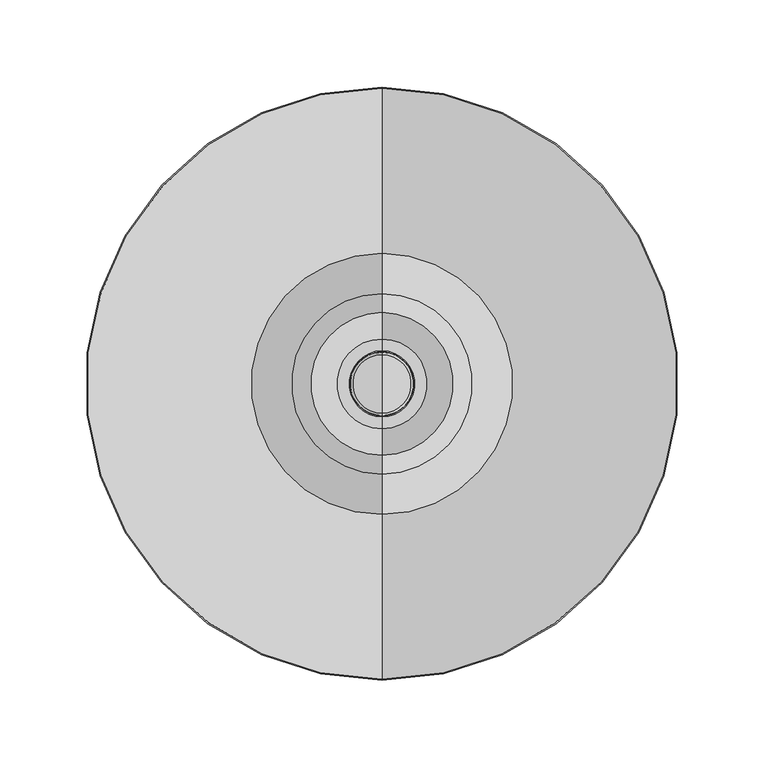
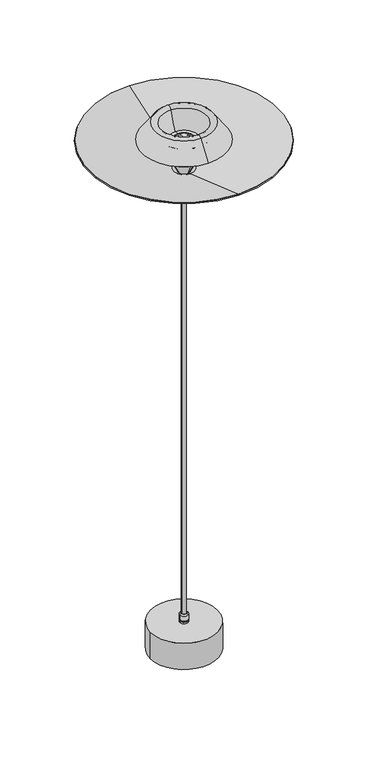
"""IFC4 building model written with IfcOpenShell, lengths in millimetres: light fixture geometry, BOVER_FANALET-S35-OUTDOOR_USA : FANALET_S35_TRIAC_U."""

from ifc_helpers import new_model, si_unit, point, frame, origin, origin_with_axes, origin_2d, place, context, project, spatial, polyline, circle_curve, ellipse_curve, trimmed, segment, composite_curve, outline, extrude, source, transform, mapped, element, save
from ifc_brep_helpers import plane_surface, cylinder_surface, revolved_surface, advanced_brep


def light_fixture_776fbf6a(model_context):
    return source(origin(), model_context, "Body", "SolidModel", [
        advanced_brep(
        [(0.0, 60.3, 976.0), (0.0, 47.1691967, 976.0), (0.0, -47.1691967, 976.0), (0.0, -60.3, 976.0), (0.0, 60.3, 977.0), (0.0, -60.3, 977.0), (0.0, 47.1691967, 977.0), (0.0, -47.1691967, 977.0), (0.0, 43.5785858, 974.7628139), (0.0, -43.5785858, 974.7628139), (0.0, 7.0202796, 900.2985396), (0.0, -7.0202796, 900.2985396), (0.0, 5.7, 894.6134649), (0.0, -5.7, 894.6134649), (0.0, 5.7, 892.2770745), (0.0, -5.7, 892.2770745), (0.0, 6.7, 892.2770745), (0.0, -6.7, 892.2770745), (0.0, 6.7, 894.6134649), (0.0, -6.7, 894.6134649), (0.0, 7.9179323, 899.8578362), (0.0, -7.9179323, 899.8578362), (0.0, 44.4762385, 974.3221104), (0.0, -44.4762385, 974.3221104)],
        [
            (0, 1),
            (1, 2, circle_curve(frame((0.0, 0.0, 976.0), z_axis=(0.0, 0.0, 1.0), x_axis=(0.0, -1.0, 0.0)), 47.1691967)),
            (2, 3),
            (3, 0, circle_curve(frame((0.0, 0.0, 976.0), z_axis=(0.0, 0.0, -1.0), x_axis=(0.0, -1.0, 0.0)), 60.3)),
            (2, 1, circle_curve(frame((0.0, 0.0, 976.0), z_axis=(0.0, 0.0, 1.0), x_axis=(0.0, -1.0, 0.0)), 47.1691967)),
            (0, 3, circle_curve(frame((0.0, 0.0, 976.0), z_axis=(0.0, 0.0, -1.0), x_axis=(0.0, -1.0, 0.0)), 60.3)),
            (4, 0),
            (3, 5),
            (5, 4, circle_curve(frame((0.0, 0.0, 977.0), z_axis=(0.0, 0.0, -1.0), x_axis=(0.0, -1.0, 0.0)), 60.3)),
            (4, 5, circle_curve(frame((0.0, 0.0, 977.0), z_axis=(0.0, 0.0, -1.0), x_axis=(0.0, -1.0, 0.0)), 60.3)),
            (6, 4),
            (5, 7),
            (7, 6, circle_curve(frame((0.0, 0.0, 977.0), z_axis=(0.0, 0.0, -1.0), x_axis=(0.0, -1.0, 0.0)), 47.1691967)),
            (6, 7, circle_curve(frame((0.0, 0.0, 977.0), z_axis=(0.0, 0.0, -1.0), x_axis=(0.0, -1.0, 0.0)), 47.1691967)),
            (8, 6, circle_curve(frame((0.0, 47.1691967, 973.0), z_axis=(-1.0, 0.0, 0.0), x_axis=(0.0, -1.0, 0.0)), 4.0)),
            (7, 9, circle_curve(frame((0.0, -47.1691967, 973.0), z_axis=(-1.0, 0.0, 0.0), x_axis=(0.0, 1.0, 0.0)), 4.0)),
            (9, 8, circle_curve(frame((0.0, 0.0, 974.7628139), z_axis=(0.0, 0.0, -1.0), x_axis=(0.0, -1.0, 0.0)), 43.5785858)),
            (8, 9, circle_curve(frame((0.0, 0.0, 974.7628139), z_axis=(0.0, 0.0, -1.0), x_axis=(0.0, -1.0, 0.0)), 43.5785858)),
            (10, 8),
            (9, 11),
            (11, 10, circle_curve(frame((0.0, 0.0, 900.2985396), z_axis=(0.0, 0.0, -1.0), x_axis=(0.0, -1.0, 0.0)), 7.0202796)),
            (10, 11, circle_curve(frame((0.0, 0.0, 900.2985396), z_axis=(0.0, 0.0, -1.0), x_axis=(0.0, -1.0, 0.0)), 7.0202796)),
            (12, 10, circle_curve(frame((0.0, 18.6, 894.6134649), z_axis=(-1.0, 0.0, 0.0), x_axis=(0.0, -1.0, 0.0)), 12.9)),
            (11, 13, circle_curve(frame((0.0, -18.6, 894.6134649), z_axis=(-1.0, 0.0, 0.0), x_axis=(0.0, 1.0, 0.0)), 12.9)),
            (13, 12, circle_curve(frame((0.0, 0.0, 894.6134649), z_axis=(0.0, 0.0, -1.0), x_axis=(0.0, -1.0, 0.0)), 5.7)),
            (12, 13, circle_curve(frame((0.0, 0.0, 894.6134649), z_axis=(0.0, 0.0, -1.0), x_axis=(0.0, -1.0, 0.0)), 5.7)),
            (14, 12),
            (13, 15),
            (15, 14, circle_curve(frame((0.0, 0.0, 892.2770745), z_axis=(0.0, 0.0, -1.0), x_axis=(0.0, -1.0, 0.0)), 5.7)),
            (14, 15, circle_curve(frame((0.0, 0.0, 892.2770745), z_axis=(0.0, 0.0, -1.0), x_axis=(0.0, -1.0, 0.0)), 5.7)),
            (16, 14),
            (15, 17),
            (17, 16, circle_curve(frame((0.0, 0.0, 892.2770745), z_axis=(0.0, 0.0, -1.0), x_axis=(0.0, -1.0, 0.0)), 6.7)),
            (16, 17, circle_curve(frame((0.0, 0.0, 892.2770745), z_axis=(0.0, 0.0, -1.0), x_axis=(0.0, -1.0, 0.0)), 6.7)),
            (18, 16),
            (17, 19),
            (19, 18, circle_curve(frame((0.0, 0.0, 894.6134649), z_axis=(0.0, 0.0, -1.0), x_axis=(0.0, -1.0, 0.0)), 6.7)),
            (18, 19, circle_curve(frame((0.0, 0.0, 894.6134649), z_axis=(0.0, 0.0, -1.0), x_axis=(0.0, -1.0, 0.0)), 6.7)),
            (20, 18, circle_curve(frame((0.0, 18.6, 894.6134649), z_axis=(1.0, 0.0, 0.0), x_axis=(0.0, -1.0, 0.0)), 11.9)),
            (19, 21, circle_curve(frame((0.0, -18.6, 894.6134649), z_axis=(1.0, 0.0, 0.0), x_axis=(0.0, 1.0, 0.0)), 11.9)),
            (21, 20, circle_curve(frame((0.0, 0.0, 899.8578362), z_axis=(0.0, 0.0, -1.0), x_axis=(0.0, -1.0, 0.0)), 7.9179323)),
            (20, 21, circle_curve(frame((0.0, 0.0, 899.8578362), z_axis=(0.0, 0.0, -1.0), x_axis=(0.0, -1.0, 0.0)), 7.9179323)),
            (22, 20),
            (21, 23),
            (23, 22, circle_curve(frame((0.0, 0.0, 974.3221104), z_axis=(0.0, 0.0, -1.0), x_axis=(0.0, -1.0, 0.0)), 44.4762385)),
            (22, 23, circle_curve(frame((0.0, 0.0, 974.3221104), z_axis=(0.0, 0.0, -1.0), x_axis=(0.0, -1.0, 0.0)), 44.4762385)),
            (1, 22, circle_curve(frame((0.0, 47.1691967, 973.0), z_axis=(1.0, 0.0, 0.0), x_axis=(0.0, -1.0, 0.0)), 3.0)),
            (23, 2, circle_curve(frame((0.0, -47.1691967, 973.0), z_axis=(1.0, 0.0, 0.0), x_axis=(0.0, 1.0, 0.0)), 3.0)),
        ],
        [
            plane_surface(frame((0.0, 0.0, 976.0), z_axis=(0.0, 0.0, -1.0), x_axis=(0.0, -1.0, 0.0))),
            cylinder_surface(frame((0.0, 0.0, 918.2770745), z_axis=(0.0, 0.0, 1.0), x_axis=(0.0, -1.0, 0.0)), 60.3),
            plane_surface(frame((0.0, 0.0, 977.0), z_axis=(0.0, 0.0, 1.0), x_axis=(0.0, -1.0, 0.0))),
            revolved_surface(trimmed(ellipse_curve(frame((0.0, -47.1691967, 973.0), z_axis=(-1.0, 0.0, 0.0), x_axis=(0.0, 1.0, 0.0)), 4.0, 4.0), [point((0.0, -47.1691967, 977.0))], [point((0.0, -43.5785858, 974.7628139))], True, "CARTESIAN"), (0.0, 0.0, 918.2770745), (0.0, 0.0, 1.0)),
            revolved_surface(polyline([(0.0, -43.5785858, 974.7628139), (0.0, -7.0202796, 900.2985396)]), (0.0, 0.0, 918.2770745), (0.0, 0.0, 1.0)),
            revolved_surface(trimmed(ellipse_curve(frame((0.0, -18.6, 894.6134649), z_axis=(-1.0, 0.0, 0.0), x_axis=(0.0, 1.0, 0.0)), 12.9, 12.9), [point((0.0, -7.0202796, 900.2985396))], [point((0.0, -5.7, 894.6134649))], True, "CARTESIAN"), (0.0, 0.0, 918.2770745), (0.0, 0.0, 1.0)),
            revolved_surface(polyline([(0.0, -5.7, 894.6134649), (0.0, -5.7, 892.2770745)]), (0.0, 0.0, 918.2770745), (0.0, 0.0, 1.0)),
            plane_surface(frame((0.0, 0.0, 892.2770745), z_axis=(0.0, 0.0, -1.0), x_axis=(0.0, -1.0, 0.0))),
            cylinder_surface(frame((0.0, 0.0, 918.2770745), z_axis=(0.0, 0.0, 1.0), x_axis=(0.0, -1.0, 0.0)), 6.7),
            revolved_surface(trimmed(ellipse_curve(frame((0.0, -18.6, 894.6134649), z_axis=(1.0, 0.0, 0.0), x_axis=(0.0, 1.0, 0.0)), 11.9, 11.9), [point((0.0, -6.7, 894.6134649))], [point((0.0, -7.9179323, 899.8578362))], True, "CARTESIAN"), (0.0, 0.0, 918.2770745), (0.0, 0.0, 1.0)),
            revolved_surface(polyline([(0.0, -7.9179323, 899.8578362), (0.0, -44.4762385, 974.3221104)]), (0.0, 0.0, 918.2770745), (0.0, 0.0, 1.0)),
            revolved_surface(trimmed(ellipse_curve(frame((0.0, -47.1691967, 973.0), z_axis=(1.0, 0.0, 0.0), x_axis=(0.0, 1.0, 0.0)), 3.0, 3.0), [point((0.0, -44.4762385, 974.3221104))], [point((0.0, -47.1691967, 976.0))], True, "CARTESIAN"), (0.0, 0.0, 918.2770745), (0.0, 0.0, 1.0)),
        ],
        [
            (0, [[1, 2, 3, 4]]),
            (0, [[-3, 5, -1, 6]]),
            (1, [[7, -4, 8, 9]]),
            (1, [[-8, -6, -7, 10]]),
            (2, [[11, -9, 12, 13]]),
            (2, [[-12, -10, -11, 14]]),
            (3, [[15, -13, 16, 17]]),
            (3, [[-16, -14, -15, 18]]),
            (4, [[19, -17, 20, 21]]),
            (4, [[-20, -18, -19, 22]]),
            (5, [[23, -21, 24, 25]]),
            (5, [[-24, -22, -23, 26]]),
            (6, [[27, -25, 28, 29]]),
            (6, [[-28, -26, -27, 30]]),
            (7, [[31, -29, 32, 33]]),
            (7, [[-32, -30, -31, 34]]),
            (8, [[35, -33, 36, 37]]),
            (8, [[-36, -34, -35, 38]]),
            (9, [[39, -37, 40, 41]]),
            (9, [[-40, -38, -39, 42]]),
            (10, [[43, -41, 44, 45]]),
            (10, [[-44, -42, -43, 46]]),
            (11, [[47, -45, 48, -2]]),
            (11, [[-48, -46, -47, -5]]),
        ],
    ),
        advanced_brep(
        [(0.0, 25.6944102, 960.1), (0.0, 18.9944102, 960.1), (0.0, -18.9944102, 960.1), (0.0, -25.6944102, 960.1), (0.0, 25.6944102, 962.1), (0.0, -25.6944102, 962.1), (0.0, 18.9944102, 962.1), (0.0, -18.9944102, 962.1)],
        [
            (0, 1),
            (1, 2, circle_curve(frame((0.0, 0.0, 960.1), z_axis=(0.0, 0.0, 1.0), x_axis=(0.0, -1.0, 0.0)), 18.9944102)),
            (2, 3),
            (3, 0, circle_curve(frame((0.0, 0.0, 960.1), z_axis=(0.0, 0.0, -1.0), x_axis=(0.0, -1.0, 0.0)), 25.6944102)),
            (2, 1, circle_curve(frame((0.0, 0.0, 960.1), z_axis=(0.0, 0.0, 1.0), x_axis=(0.0, -1.0, 0.0)), 18.9944102)),
            (0, 3, circle_curve(frame((0.0, 0.0, 960.1), z_axis=(0.0, 0.0, -1.0), x_axis=(0.0, -1.0, 0.0)), 25.6944102)),
            (4, 0),
            (3, 5),
            (5, 4, circle_curve(frame((0.0, 0.0, 962.1), z_axis=(0.0, 0.0, -1.0), x_axis=(0.0, -1.0, 0.0)), 25.6944102)),
            (4, 5, circle_curve(frame((0.0, 0.0, 962.1), z_axis=(0.0, 0.0, -1.0), x_axis=(0.0, -1.0, 0.0)), 25.6944102)),
            (6, 4),
            (5, 7),
            (7, 6, circle_curve(frame((0.0, 0.0, 962.1), z_axis=(0.0, 0.0, -1.0), x_axis=(0.0, -1.0, 0.0)), 18.9944102)),
            (6, 7, circle_curve(frame((0.0, 0.0, 962.1), z_axis=(0.0, 0.0, -1.0), x_axis=(0.0, -1.0, 0.0)), 18.9944102)),
            (1, 6),
            (7, 2),
        ],
        [
            plane_surface(frame((0.0, 0.0, 960.1), z_axis=(0.0, 0.0, -1.0), x_axis=(0.0, -1.0, 0.0))),
            cylinder_surface(frame((0.0, 0.0, 946.3553389), z_axis=(0.0, 0.0, 1.0), x_axis=(0.0, -1.0, 0.0)), 25.6944102),
            plane_surface(frame((0.0, 0.0, 962.1), z_axis=(0.0, 0.0, 1.0), x_axis=(0.0, -1.0, 0.0))),
            revolved_surface(polyline([(0.0, -18.9944102, 962.1), (0.0, -18.9944102, 960.1)]), (0.0, 0.0, 946.3553389), (0.0, 0.0, 1.0)),
        ],
        [
            (0, [[1, 2, 3, 4]]),
            (0, [[-3, 5, -1, 6]]),
            (1, [[7, -4, 8, 9]]),
            (1, [[-8, -6, -7, 10]]),
            (2, [[11, -9, 12, 13]]),
            (2, [[-12, -10, -11, 14]]),
            (3, [[15, -13, 16, -2]]),
            (3, [[-16, -14, -15, -5]]),
        ],
    ),
        advanced_brep(
        [(0.0, 25.2, 960.1), (0.0, 25.2, 958.6), (0.0, -25.2, 958.6), (0.0, -25.2, 960.1), (0.0, 18.3, 960.1), (0.0, -18.3, 960.1), (0.0, 18.2373555, 961.8316716), (0.0, -18.2373555, 961.8316716), (0.0, 16.803486, 963.6779542), (0.0, -16.803486, 963.6779542), (0.0, 0.0, 966.1), (0.0, 16.7253602, 962.1361353), (0.0, 0.0, 964.6), (0.0, -16.7253602, 962.1361353), (0.0, 16.8009805, 960.0457719), (0.0, -16.8009805, 960.0457719), (0.0, 18.3, 958.6), (0.0, -18.3, 958.6)],
        [
            (0, 1),
            (1, 2, circle_curve(frame((0.0, 0.0, 958.6), z_axis=(0.0, 0.0, 1.0), x_axis=(0.0, -1.0, 0.0)), 25.2)),
            (2, 3),
            (3, 0, circle_curve(frame((0.0, 0.0, 960.1), z_axis=(0.0, 0.0, -1.0), x_axis=(0.0, -1.0, 0.0)), 25.2)),
            (2, 1, circle_curve(frame((0.0, 0.0, 958.6), z_axis=(0.0, 0.0, 1.0), x_axis=(0.0, -1.0, 0.0)), 25.2)),
            (0, 3, circle_curve(frame((0.0, 0.0, 960.1), z_axis=(0.0, 0.0, -1.0), x_axis=(0.0, -1.0, 0.0)), 25.2)),
            (4, 0),
            (3, 5),
            (5, 4, circle_curve(frame((0.0, 0.0, 960.1), z_axis=(0.0, 0.0, -1.0), x_axis=(0.0, -1.0, 0.0)), 18.3)),
            (4, 5, circle_curve(frame((0.0, 0.0, 960.1), z_axis=(0.0, 0.0, -1.0), x_axis=(0.0, -1.0, 0.0)), 18.3)),
            (6, 4),
            (5, 7),
            (7, 6, circle_curve(frame((0.0, 0.0, 961.8316716), z_axis=(0.0, 0.0, -1.0), x_axis=(0.0, -1.0, 0.0)), 18.2373555)),
            (6, 7, circle_curve(frame((0.0, 0.0, 961.8316716), z_axis=(0.0, 0.0, -1.0), x_axis=(0.0, -1.0, 0.0)), 18.2373555)),
            (8, 6, circle_curve(frame((0.0, 16.2386629, 961.7593675), z_axis=(-1.0, 0.0, 0.0), x_axis=(0.0, -1.0, 0.0)), 2.0)),
            (7, 9, circle_curve(frame((0.0, -16.2386629, 961.7593675), z_axis=(-1.0, 0.0, 0.0), x_axis=(0.0, 1.0, 0.0)), 2.0)),
            (9, 8, circle_curve(frame((0.0, 0.0, 963.6779542), z_axis=(0.0, 0.0, -1.0), x_axis=(0.0, -1.0, 0.0)), 16.803486)),
            (8, 9, circle_curve(frame((0.0, 0.0, 963.6779542), z_axis=(0.0, 0.0, -1.0), x_axis=(0.0, -1.0, 0.0)), 16.803486)),
            (10, 8, circle_curve(frame((0.0, 0.0, 906.6), z_axis=(-1.0, 0.0, 0.0), x_axis=(0.0, -1.0, 0.0)), 59.5)),
            (9, 10, circle_curve(frame((0.0, 0.0, 906.6), z_axis=(-1.0, 0.0, 0.0), x_axis=(0.0, 1.0, 0.0)), 59.5)),
            (11, 12, circle_curve(frame((0.0, 0.0, 906.6), z_axis=(1.0, 0.0, 0.0), x_axis=(0.0, -1.0, 0.0)), 58.0)),
            (12, 13, circle_curve(frame((0.0, 0.0, 906.6), z_axis=(1.0, 0.0, 0.0), x_axis=(0.0, 1.0, 0.0)), 58.0)),
            (13, 11, circle_curve(frame((0.0, 0.0, 962.1361353), z_axis=(0.0, 0.0, -1.0), x_axis=(0.0, -1.0, 0.0)), 16.7253602)),
            (11, 13, circle_curve(frame((0.0, 0.0, 962.1361353), z_axis=(0.0, 0.0, -1.0), x_axis=(0.0, -1.0, 0.0)), 16.7253602)),
            (14, 11),
            (13, 15),
            (15, 14, circle_curve(frame((0.0, 0.0, 960.0457719), z_axis=(0.0, 0.0, -1.0), x_axis=(0.0, -1.0, 0.0)), 16.8009805)),
            (14, 15, circle_curve(frame((0.0, 0.0, 960.0457719), z_axis=(0.0, 0.0, -1.0), x_axis=(0.0, -1.0, 0.0)), 16.8009805)),
            (16, 14, circle_curve(frame((0.0, 18.3, 960.1), z_axis=(-1.0, 0.0, 0.0), x_axis=(0.0, -1.0, 0.0)), 1.5)),
            (15, 17, circle_curve(frame((0.0, -18.3, 960.1), z_axis=(-1.0, 0.0, 0.0), x_axis=(0.0, 1.0, 0.0)), 1.5)),
            (17, 16, circle_curve(frame((0.0, 0.0, 958.6), z_axis=(0.0, 0.0, -1.0), x_axis=(0.0, -1.0, 0.0)), 18.3)),
            (16, 17, circle_curve(frame((0.0, 0.0, 958.6), z_axis=(0.0, 0.0, -1.0), x_axis=(0.0, -1.0, 0.0)), 18.3)),
            (1, 16),
            (17, 2),
        ],
        [
            cylinder_surface(frame((0.0, 0.0, 957.8466328), z_axis=(0.0, 0.0, 1.0), x_axis=(0.0, -1.0, 0.0)), 25.2),
            plane_surface(frame((0.0, 0.0, 960.1), z_axis=(0.0, 0.0, 1.0), x_axis=(0.0, -1.0, 0.0))),
            revolved_surface(polyline([(0.0, -18.3, 960.1), (0.0, -18.2373555, 961.8316716)]), (0.0, 0.0, 957.8466328), (0.0, 0.0, 1.0)),
            revolved_surface(trimmed(ellipse_curve(frame((0.0, -16.2386629, 961.7593675), z_axis=(-1.0, 0.0, 0.0), x_axis=(0.0, 1.0, 0.0)), 2.0, 2.0), [point((0.0, -18.2373555, 961.8316716))], [point((0.0, -16.803486, 963.6779542))], True, "CARTESIAN"), (0.0, 0.0, 957.8466328), (0.0, 0.0, 1.0)),
            revolved_surface(trimmed(ellipse_curve(frame((0.0, 0.0, 906.6), z_axis=(-1.0, 0.0, 0.0), x_axis=(0.0, 1.0, 0.0)), 59.5, 59.5), [point((0.0, -16.803486, 963.6779542))], [point((0.0, 0.0, 966.1))], True, "CARTESIAN"), (0.0, 0.0, 957.8466328), (0.0, 0.0, 1.0)),
            revolved_surface(trimmed(ellipse_curve(frame((0.0, 0.0, 906.6), z_axis=(1.0, 0.0, 0.0), x_axis=(0.0, 1.0, 0.0)), 58.0, 58.0), [point((0.0, 0.0, 964.6))], [point((0.0, -16.7253602, 962.1361353))], True, "CARTESIAN"), (0.0, 0.0, 957.8466328), (0.0, 0.0, 1.0)),
            revolved_surface(polyline([(0.0, -16.7253602, 962.1361353), (0.0, -16.8009805, 960.0457719)]), (0.0, 0.0, 957.8466328), (0.0, 0.0, 1.0)),
            revolved_surface(trimmed(ellipse_curve(frame((0.0, -18.3, 960.1), z_axis=(-1.0, 0.0, 0.0), x_axis=(0.0, 1.0, 0.0)), 1.5, 1.5), [point((0.0, -16.8009805, 960.0457719))], [point((0.0, -18.3, 958.6))], True, "CARTESIAN"), (0.0, 0.0, 957.8466328), (0.0, 0.0, 1.0)),
            plane_surface(frame((0.0, 0.0, 958.6), z_axis=(0.0, 0.0, -1.0), x_axis=(0.0, -1.0, 0.0))),
        ],
        [
            (0, [[1, 2, 3, 4]]),
            (0, [[-3, 5, -1, 6]]),
            (1, [[7, -4, 8, 9]]),
            (1, [[-8, -6, -7, 10]]),
            (2, [[11, -9, 12, 13]]),
            (2, [[-12, -10, -11, 14]]),
            (3, [[15, -13, 16, 17]]),
            (3, [[-16, -14, -15, 18]]),
            (4, [[19, -17, 20]]),
            (4, [[-20, -18, -19]]),
            (5, [[21, 22, 23]]),
            (5, [[-22, -21, 24]]),
            (6, [[25, -23, 26, 27]]),
            (6, [[-26, -24, -25, 28]]),
            (7, [[29, -27, 30, 31]]),
            (7, [[-30, -28, -29, 32]]),
            (8, [[33, -31, 34, -2]]),
            (8, [[-34, -32, -33, -5]]),
        ],
    ),
        advanced_brep(
        [(0.0, 40.9046909, 994.0325512), (0.0, 51.6915226, 996.2416263), (0.0, -51.6915226, 996.2416263), (0.0, -40.9046909, 994.0325512), (0.0, 25.0991174, 956.099457), (0.0, -25.0991174, 956.099457), (0.0, 23.4291458, 955.2), (0.0, -23.4291458, 955.2), (0.0, 25.9341031, 955.5491855), (0.0, 23.4291458, 954.2), (0.0, -23.4291458, 954.2), (0.0, -25.9341031, 955.5491855), (0.0, 41.8833637, 993.827126), (0.0, -41.8833637, 993.827126), (0.0, 50.8723902, 995.668022), (0.0, -50.8723902, 995.668022), (0.0, 74.0326585, 962.5941332), (0.0, -74.0326585, 962.5941332), (0.0, 74.851791, 963.1677376), (0.0, -74.851791, 963.1677376)],
        [
            (0, 1, circle_curve(frame((0.0, 46.7767278, 992.8), z_axis=(-1.0, 0.0, 0.0), x_axis=(0.0, -1.0, 0.0)), 6.0)),
            (1, 2, circle_curve(frame((0.0, 0.0, 996.2416263), z_axis=(0.0, 0.0, 1.0), x_axis=(0.0, -1.0, 0.0)), 51.6915226)),
            (2, 3, circle_curve(frame((0.0, -46.7767278, 992.8), z_axis=(-1.0, 0.0, 0.0), x_axis=(0.0, 1.0, 0.0)), 6.0)),
            (3, 0, circle_curve(frame((0.0, 0.0, 994.0325512), z_axis=(0.0, 0.0, -1.0), x_axis=(0.0, -1.0, 0.0)), 40.9046909)),
            (2, 1, circle_curve(frame((0.0, 0.0, 996.2416263), z_axis=(0.0, 0.0, 1.0), x_axis=(0.0, -1.0, 0.0)), 51.6915226)),
            (0, 3, circle_curve(frame((0.0, 0.0, 994.0325512), z_axis=(0.0, 0.0, -1.0), x_axis=(0.0, -1.0, 0.0)), 40.9046909)),
            (4, 0, circle_curve(frame((0.0, -66.7493192, 1016.6293231), z_axis=(1.0, 0.0, 0.0), x_axis=(0.0, -1.0, 0.0)), 110.0)),
            (3, 5, circle_curve(frame((0.0, 66.7493192, 1016.6293231), z_axis=(1.0, 0.0, 0.0), x_axis=(0.0, 1.0, 0.0)), 110.0)),
            (5, 4, circle_curve(frame((0.0, 0.0, 956.099457), z_axis=(0.0, 0.0, -1.0), x_axis=(0.0, -1.0, 0.0)), 25.0991174)),
            (4, 5, circle_curve(frame((0.0, 0.0, 956.099457), z_axis=(0.0, 0.0, -1.0), x_axis=(0.0, -1.0, 0.0)), 25.0991174)),
            (6, 4, circle_curve(frame((0.0, 23.4291458, 957.2), z_axis=(1.0, 0.0, 0.0), x_axis=(0.0, -1.0, 0.0)), 2.0)),
            (5, 7, circle_curve(frame((0.0, -23.4291458, 957.2), z_axis=(1.0, 0.0, 0.0), x_axis=(0.0, 1.0, 0.0)), 2.0)),
            (7, 6, circle_curve(frame((0.0, 0.0, 955.2), z_axis=(0.0, 0.0, -1.0), x_axis=(0.0, -1.0, 0.0)), 23.4291458)),
            (6, 7, circle_curve(frame((0.0, 0.0, 955.2), z_axis=(0.0, 0.0, -1.0), x_axis=(0.0, -1.0, 0.0)), 23.4291458)),
            (8, 9, circle_curve(frame((0.0, 23.4291458, 957.2), z_axis=(-1.0, 0.0, 0.0), x_axis=(0.0, -1.0, 0.0)), 3.0)),
            (9, 10, circle_curve(frame((0.0, 0.0, 954.2), z_axis=(0.0, 0.0, 1.0), x_axis=(0.0, -1.0, 0.0)), 23.4291458)),
            (10, 11, circle_curve(frame((0.0, -23.4291458, 957.2), z_axis=(-1.0, 0.0, 0.0), x_axis=(0.0, 1.0, 0.0)), 3.0)),
            (11, 8, circle_curve(frame((0.0, 0.0, 955.5491855), z_axis=(0.0, 0.0, -1.0), x_axis=(0.0, -1.0, 0.0)), 25.9341031)),
            (10, 9, circle_curve(frame((0.0, 0.0, 954.2), z_axis=(0.0, 0.0, 1.0), x_axis=(0.0, -1.0, 0.0)), 23.4291458)),
            (8, 11, circle_curve(frame((0.0, 0.0, 955.5491855), z_axis=(0.0, 0.0, -1.0), x_axis=(0.0, -1.0, 0.0)), 25.9341031)),
            (12, 8, circle_curve(frame((0.0, -66.7493192, 1016.6293231), z_axis=(-1.0, 0.0, 0.0), x_axis=(0.0, -1.0, 0.0)), 111.0)),
            (11, 13, circle_curve(frame((0.0, 66.7493192, 1016.6293231), z_axis=(-1.0, 0.0, 0.0), x_axis=(0.0, 1.0, 0.0)), 111.0)),
            (13, 12, circle_curve(frame((0.0, 0.0, 993.827126), z_axis=(0.0, 0.0, -1.0), x_axis=(0.0, -1.0, 0.0)), 41.8833637)),
            (12, 13, circle_curve(frame((0.0, 0.0, 993.827126), z_axis=(0.0, 0.0, -1.0), x_axis=(0.0, -1.0, 0.0)), 41.8833637)),
            (14, 12, circle_curve(frame((0.0, 46.7767278, 992.8), z_axis=(1.0, 0.0, 0.0), x_axis=(0.0, -1.0, 0.0)), 5.0)),
            (13, 15, circle_curve(frame((0.0, -46.7767278, 992.8), z_axis=(1.0, 0.0, 0.0), x_axis=(0.0, 1.0, 0.0)), 5.0)),
            (15, 14, circle_curve(frame((0.0, 0.0, 995.668022), z_axis=(0.0, 0.0, -1.0), x_axis=(0.0, -1.0, 0.0)), 50.8723902)),
            (14, 15, circle_curve(frame((0.0, 0.0, 995.668022), z_axis=(0.0, 0.0, -1.0), x_axis=(0.0, -1.0, 0.0)), 50.8723902)),
            (16, 14),
            (15, 17),
            (17, 16, circle_curve(frame((0.0, 0.0, 962.5941332), z_axis=(0.0, 0.0, -1.0), x_axis=(0.0, -1.0, 0.0)), 74.0326585)),
            (16, 17, circle_curve(frame((0.0, 0.0, 962.5941332), z_axis=(0.0, 0.0, -1.0), x_axis=(0.0, -1.0, 0.0)), 74.0326585)),
            (18, 16),
            (17, 19),
            (19, 18, circle_curve(frame((0.0, 0.0, 963.1677376), z_axis=(0.0, 0.0, -1.0), x_axis=(0.0, -1.0, 0.0)), 74.851791)),
            (18, 19, circle_curve(frame((0.0, 0.0, 963.1677376), z_axis=(0.0, 0.0, -1.0), x_axis=(0.0, -1.0, 0.0)), 74.851791)),
            (1, 18),
            (19, 2),
            (9, 6),
            (7, 10),
        ],
        [
            revolved_surface(trimmed(ellipse_curve(frame((0.0, -46.7767278, 992.8), z_axis=(-1.0, 0.0, 0.0), x_axis=(0.0, 1.0, 0.0)), 6.0, 6.0), [point((0.0, -51.6915226, 996.2416263))], [point((0.0, -40.9046909, 994.0325512))], True, "CARTESIAN"), (0.0, 0.0, 931.637333), (0.0, 0.0, 1.0)),
            revolved_surface(trimmed(ellipse_curve(frame((0.0, 66.7493192, 1016.6293231), z_axis=(1.0, 0.0, 0.0), x_axis=(0.0, 1.0, 0.0)), 110.0, 110.0), [point((0.0, -40.9046909, 994.0325512))], [point((0.0, -25.0991174, 956.099457))], True, "CARTESIAN"), (0.0, 0.0, 931.637333), (0.0, 0.0, 1.0)),
            revolved_surface(trimmed(ellipse_curve(frame((0.0, -23.4291458, 957.2), z_axis=(1.0, 0.0, 0.0), x_axis=(0.0, 1.0, 0.0)), 2.0, 2.0), [point((0.0, -25.0991174, 956.099457))], [point((0.0, -23.4291458, 955.2))], True, "CARTESIAN"), (0.0, 0.0, 931.637333), (0.0, 0.0, 1.0)),
            revolved_surface(trimmed(ellipse_curve(frame((0.0, -23.4291458, 957.2), z_axis=(-1.0, 0.0, 0.0), x_axis=(0.0, 1.0, 0.0)), 3.0, 3.0), [point((0.0, -23.4291458, 954.2))], [point((0.0, -25.9341031, 955.5491855))], True, "CARTESIAN"), (0.0, 0.0, 931.637333), (0.0, 0.0, 1.0)),
            revolved_surface(trimmed(ellipse_curve(frame((0.0, 66.7493192, 1016.6293231), z_axis=(-1.0, 0.0, 0.0), x_axis=(0.0, 1.0, 0.0)), 111.0, 111.0), [point((0.0, -25.9341031, 955.5491855))], [point((0.0, -41.8833637, 993.827126))], True, "CARTESIAN"), (0.0, 0.0, 931.637333), (0.0, 0.0, 1.0)),
            revolved_surface(trimmed(ellipse_curve(frame((0.0, -46.7767278, 992.8), z_axis=(1.0, 0.0, 0.0), x_axis=(0.0, 1.0, 0.0)), 5.0, 5.0), [point((0.0, -41.8833637, 993.827126))], [point((0.0, -50.8723902, 995.668022))], True, "CARTESIAN"), (0.0, 0.0, 931.637333), (0.0, 0.0, 1.0)),
            revolved_surface(polyline([(0.0, -50.8723902, 995.668022), (0.0, -74.0326585, 962.5941332)]), (0.0, 0.0, 931.637333), (0.0, 0.0, 1.0)),
            revolved_surface(polyline([(0.0, -74.0326585, 962.5941332), (0.0, -74.851791, 963.1677376)]), (0.0, 0.0, 931.637333), (0.0, 0.0, 1.0)),
            revolved_surface(polyline([(0.0, -74.851791, 963.1677376), (0.0, -51.6915226, 996.2416263)]), (0.0, 0.0, 931.637333), (0.0, 0.0, 1.0)),
            revolved_surface(polyline([(0.0, -23.4291458, 955.2), (0.0, -23.4291458, 954.2)]), (0.0, 0.0, 931.637333), (0.0, 0.0, 1.0)),
        ],
        [
            (0, [[1, 2, 3, 4]]),
            (0, [[-3, 5, -1, 6]]),
            (1, [[7, -4, 8, 9]]),
            (1, [[-8, -6, -7, 10]]),
            (2, [[11, -9, 12, 13]]),
            (2, [[-12, -10, -11, 14]]),
            (3, [[15, 16, 17, 18]]),
            (3, [[-17, 19, -15, 20]]),
            (4, [[21, -18, 22, 23]]),
            (4, [[-22, -20, -21, 24]]),
            (5, [[25, -23, 26, 27]]),
            (5, [[-26, -24, -25, 28]]),
            (6, [[29, -27, 30, 31]]),
            (6, [[-30, -28, -29, 32]]),
            (7, [[33, -31, 34, 35]]),
            (7, [[-34, -32, -33, 36]]),
            (8, [[37, -35, 38, -2]]),
            (8, [[-38, -36, -37, -5]]),
            (9, [[39, -13, 40, -16]]),
            (9, [[-40, -14, -39, -19]]),
        ],
    ),
        advanced_brep(
        [(0.0, 169.3452444, 961.989787), (0.0, 168.7566465, 960.7275349), (0.0, -168.7566465, 960.7275349), (0.0, -169.3452444, 961.989787), (0.0, 19.2851815, 909.9983888), (0.0, -19.2851815, 909.9983888), (0.0, 5.9, 891.1950077), (0.0, -5.9, 891.1950077), (0.0, 5.9, 883.2), (0.0, -5.9, 883.2), (0.0, 6.9, 883.2), (0.0, -6.9, 883.2), (0.0, 6.9, 891.1950077), (0.0, -6.9, 891.1950077), (0.0, 19.6125593, 909.0534953), (0.0, -19.6125593, 909.0534953)],
        [
            (0, 1),
            (1, 2, circle_curve(frame((0.0, 0.0, 960.7275349), z_axis=(0.0, 0.0, 1.0), x_axis=(0.0, -1.0, 0.0)), 168.7566465)),
            (2, 3),
            (3, 0, circle_curve(frame((0.0, 0.0, 961.989787), z_axis=(0.0, 0.0, -1.0), x_axis=(0.0, -1.0, 0.0)), 169.3452444)),
            (2, 1, circle_curve(frame((0.0, 0.0, 960.7275349), z_axis=(0.0, 0.0, 1.0), x_axis=(0.0, -1.0, 0.0)), 168.7566465)),
            (0, 3, circle_curve(frame((0.0, 0.0, 961.989787), z_axis=(0.0, 0.0, -1.0), x_axis=(0.0, -1.0, 0.0)), 169.3452444)),
            (4, 0),
            (3, 5),
            (5, 4, circle_curve(frame((0.0, 0.0, 909.9983888), z_axis=(0.0, 0.0, -1.0), x_axis=(0.0, -1.0, 0.0)), 19.2851815)),
            (4, 5, circle_curve(frame((0.0, 0.0, 909.9983888), z_axis=(0.0, 0.0, -1.0), x_axis=(0.0, -1.0, 0.0)), 19.2851815)),
            (6, 4, circle_curve(frame((0.0, 25.8, 891.1950077), z_axis=(-1.0, 0.0, 0.0), x_axis=(0.0, -1.0, 0.0)), 19.9)),
            (5, 7, circle_curve(frame((0.0, -25.8, 891.1950077), z_axis=(-1.0, 0.0, 0.0), x_axis=(0.0, 1.0, 0.0)), 19.9)),
            (7, 6, circle_curve(frame((0.0, 0.0, 891.1950077), z_axis=(0.0, 0.0, -1.0), x_axis=(0.0, -1.0, 0.0)), 5.9)),
            (6, 7, circle_curve(frame((0.0, 0.0, 891.1950077), z_axis=(0.0, 0.0, -1.0), x_axis=(0.0, -1.0, 0.0)), 5.9)),
            (8, 6),
            (7, 9),
            (9, 8, circle_curve(frame((0.0, 0.0, 883.2), z_axis=(0.0, 0.0, -1.0), x_axis=(0.0, -1.0, 0.0)), 5.9)),
            (8, 9, circle_curve(frame((0.0, 0.0, 883.2), z_axis=(0.0, 0.0, -1.0), x_axis=(0.0, -1.0, 0.0)), 5.9)),
            (10, 8),
            (9, 11),
            (11, 10, circle_curve(frame((0.0, 0.0, 883.2), z_axis=(0.0, 0.0, -1.0), x_axis=(0.0, -1.0, 0.0)), 6.9)),
            (10, 11, circle_curve(frame((0.0, 0.0, 883.2), z_axis=(0.0, 0.0, -1.0), x_axis=(0.0, -1.0, 0.0)), 6.9)),
            (12, 10),
            (11, 13),
            (13, 12, circle_curve(frame((0.0, 0.0, 891.1950077), z_axis=(0.0, 0.0, -1.0), x_axis=(0.0, -1.0, 0.0)), 6.9)),
            (12, 13, circle_curve(frame((0.0, 0.0, 891.1950077), z_axis=(0.0, 0.0, -1.0), x_axis=(0.0, -1.0, 0.0)), 6.9)),
            (14, 12, circle_curve(frame((0.0, 25.8, 891.1950077), z_axis=(1.0, 0.0, 0.0), x_axis=(0.0, -1.0, 0.0)), 18.9)),
            (13, 15, circle_curve(frame((0.0, -25.8, 891.1950077), z_axis=(1.0, 0.0, 0.0), x_axis=(0.0, 1.0, 0.0)), 18.9)),
            (15, 14, circle_curve(frame((0.0, 0.0, 909.0534953), z_axis=(0.0, 0.0, -1.0), x_axis=(0.0, -1.0, 0.0)), 19.6125593)),
            (14, 15, circle_curve(frame((0.0, 0.0, 909.0534953), z_axis=(0.0, 0.0, -1.0), x_axis=(0.0, -1.0, 0.0)), 19.6125593)),
            (1, 14),
            (15, 2),
        ],
        [
            revolved_surface(polyline([(0.0, -168.7566465, 960.7275349), (0.0, -169.3452444, 961.989787)]), (0.0, 0.0, 905.6863505), (0.0, 0.0, 1.0)),
            revolved_surface(polyline([(0.0, -169.3452444, 961.989787), (0.0, -19.2851815, 909.9983888)]), (0.0, 0.0, 905.6863505), (0.0, 0.0, 1.0)),
            revolved_surface(trimmed(ellipse_curve(frame((0.0, -25.8, 891.1950077), z_axis=(-1.0, 0.0, 0.0), x_axis=(0.0, 1.0, 0.0)), 19.9, 19.9), [point((0.0, -19.2851815, 909.9983888))], [point((0.0, -5.9, 891.1950077))], True, "CARTESIAN"), (0.0, 0.0, 905.6863505), (0.0, 0.0, 1.0)),
            revolved_surface(polyline([(0.0, -5.9, 891.1950077), (0.0, -5.9, 883.2)]), (0.0, 0.0, 905.6863505), (0.0, 0.0, 1.0)),
            plane_surface(frame((0.0, 0.0, 883.2), z_axis=(0.0, 0.0, -1.0), x_axis=(0.0, -1.0, 0.0))),
            cylinder_surface(frame((0.0, 0.0, 905.6863505), z_axis=(0.0, 0.0, 1.0), x_axis=(0.0, -1.0, 0.0)), 6.9),
            revolved_surface(trimmed(ellipse_curve(frame((0.0, -25.8, 891.1950077), z_axis=(1.0, 0.0, 0.0), x_axis=(0.0, 1.0, 0.0)), 18.9, 18.9), [point((0.0, -6.9, 891.1950077))], [point((0.0, -19.6125593, 909.0534953))], True, "CARTESIAN"), (0.0, 0.0, 905.6863505), (0.0, 0.0, 1.0)),
            revolved_surface(polyline([(0.0, -19.6125593, 909.0534953), (0.0, -168.7566465, 960.7275349)]), (0.0, 0.0, 905.6863505), (0.0, 0.0, 1.0)),
        ],
        [
            (0, [[1, 2, 3, 4]]),
            (0, [[-3, 5, -1, 6]]),
            (1, [[7, -4, 8, 9]]),
            (1, [[-8, -6, -7, 10]]),
            (2, [[11, -9, 12, 13]]),
            (2, [[-12, -10, -11, 14]]),
            (3, [[15, -13, 16, 17]]),
            (3, [[-16, -14, -15, 18]]),
            (4, [[19, -17, 20, 21]]),
            (4, [[-20, -18, -19, 22]]),
            (5, [[23, -21, 24, 25]]),
            (5, [[-24, -22, -23, 26]]),
            (6, [[27, -25, 28, 29]]),
            (6, [[-28, -26, -27, 30]]),
            (7, [[31, -29, 32, -2]]),
            (7, [[-32, -30, -31, -5]]),
        ],
    ),
        advanced_brep(
        [(0.0, 170.0, 960.1), (0.0, 19.9399371, 908.1086017), (0.0, -19.9399371, 908.1086017), (0.0, -170.0, 960.1), (0.0, 169.3452444, 961.989787), (0.0, -169.3452444, 961.989787), (0.0, 19.6125593, 909.0534953), (0.0, 168.7566465, 960.7275349), (0.0, -168.7566465, 960.7275349), (0.0, -19.6125593, 909.0534953), (0.0, 6.9, 891.1950077), (0.0, -6.9, 891.1950077), (0.0, 6.9, 883.2), (0.0, -6.9, 883.2), (0.0, 0.0, 883.2), (0.0, 7.9, 882.2), (0.0, 0.0, 882.2), (0.0, -7.9, 882.2), (0.0, 7.9, 891.1950077), (0.0, -7.9, 891.1950077)],
        [
            (0, 1),
            (1, 2, circle_curve(frame((0.0, 0.0, 908.1086017), z_axis=(0.0, 0.0, 1.0), x_axis=(0.0, -1.0, 0.0)), 19.9399371)),
            (2, 3),
            (3, 0, circle_curve(frame((0.0, 0.0, 960.1), z_axis=(0.0, 0.0, -1.0), x_axis=(0.0, -1.0, 0.0)), 170.0)),
            (2, 1, circle_curve(frame((0.0, 0.0, 908.1086017), z_axis=(0.0, 0.0, 1.0), x_axis=(0.0, -1.0, 0.0)), 19.9399371)),
            (0, 3, circle_curve(frame((0.0, 0.0, 960.1), z_axis=(0.0, 0.0, -1.0), x_axis=(0.0, -1.0, 0.0)), 170.0)),
            (4, 0),
            (3, 5),
            (5, 4, circle_curve(frame((0.0, 0.0, 961.989787), z_axis=(0.0, 0.0, -1.0), x_axis=(0.0, -1.0, 0.0)), 169.3452444)),
            (4, 5, circle_curve(frame((0.0, 0.0, 961.989787), z_axis=(0.0, 0.0, -1.0), x_axis=(0.0, -1.0, 0.0)), 169.3452444)),
            (6, 7),
            (7, 8, circle_curve(frame((0.0, 0.0, 960.7275349), z_axis=(0.0, 0.0, 1.0), x_axis=(0.0, -1.0, 0.0)), 168.7566465)),
            (8, 9),
            (9, 6, circle_curve(frame((0.0, 0.0, 909.0534953), z_axis=(0.0, 0.0, -1.0), x_axis=(0.0, -1.0, 0.0)), 19.6125593)),
            (8, 7, circle_curve(frame((0.0, 0.0, 960.7275349), z_axis=(0.0, 0.0, 1.0), x_axis=(0.0, -1.0, 0.0)), 168.7566465)),
            (6, 9, circle_curve(frame((0.0, 0.0, 909.0534953), z_axis=(0.0, 0.0, -1.0), x_axis=(0.0, -1.0, 0.0)), 19.6125593)),
            (10, 6, circle_curve(frame((0.0, 25.8, 891.1950077), z_axis=(-1.0, 0.0, 0.0), x_axis=(0.0, -1.0, 0.0)), 18.9)),
            (9, 11, circle_curve(frame((0.0, -25.8, 891.1950077), z_axis=(-1.0, 0.0, 0.0), x_axis=(0.0, 1.0, 0.0)), 18.9)),
            (11, 10, circle_curve(frame((0.0, 0.0, 891.1950077), z_axis=(0.0, 0.0, -1.0), x_axis=(0.0, -1.0, 0.0)), 6.9)),
            (10, 11, circle_curve(frame((0.0, 0.0, 891.1950077), z_axis=(0.0, 0.0, -1.0), x_axis=(0.0, -1.0, 0.0)), 6.9)),
            (12, 10),
            (11, 13),
            (13, 12, circle_curve(frame((0.0, 0.0, 883.2), z_axis=(0.0, 0.0, -1.0), x_axis=(0.0, -1.0, 0.0)), 6.9)),
            (12, 13, circle_curve(frame((0.0, 0.0, 883.2), z_axis=(0.0, 0.0, -1.0), x_axis=(0.0, -1.0, 0.0)), 6.9)),
            (14, 12),
            (13, 14),
            (15, 16),
            (16, 17),
            (17, 15, circle_curve(frame((0.0, 0.0, 882.2), z_axis=(0.0, 0.0, -1.0), x_axis=(0.0, -1.0, 0.0)), 7.9)),
            (15, 17, circle_curve(frame((0.0, 0.0, 882.2), z_axis=(0.0, 0.0, -1.0), x_axis=(0.0, -1.0, 0.0)), 7.9)),
            (18, 15),
            (17, 19),
            (19, 18, circle_curve(frame((0.0, 0.0, 891.1950077), z_axis=(0.0, 0.0, -1.0), x_axis=(0.0, -1.0, 0.0)), 7.9)),
            (18, 19, circle_curve(frame((0.0, 0.0, 891.1950077), z_axis=(0.0, 0.0, -1.0), x_axis=(0.0, -1.0, 0.0)), 7.9)),
            (1, 18, circle_curve(frame((0.0, 25.8, 891.1950077), z_axis=(1.0, 0.0, 0.0), x_axis=(0.0, -1.0, 0.0)), 17.9)),
            (19, 2, circle_curve(frame((0.0, -25.8, 891.1950077), z_axis=(1.0, 0.0, 0.0), x_axis=(0.0, 1.0, 0.0)), 17.9)),
            (7, 4),
            (5, 8),
        ],
        [
            revolved_surface(polyline([(0.0, -19.9399371, 908.1086017), (0.0, -170.0, 960.1)]), (0.0, 0.0, 903.2), (0.0, 0.0, 1.0)),
            revolved_surface(polyline([(0.0, -170.0, 960.1), (0.0, -169.3452444, 961.989787)]), (0.0, 0.0, 903.2), (0.0, 0.0, 1.0)),
            revolved_surface(polyline([(0.0, -168.7566465, 960.7275349), (0.0, -19.6125593, 909.0534953)]), (0.0, 0.0, 903.2), (0.0, 0.0, 1.0)),
            revolved_surface(trimmed(ellipse_curve(frame((0.0, -25.8, 891.1950077), z_axis=(-1.0, 0.0, 0.0), x_axis=(0.0, 1.0, 0.0)), 18.9, 18.9), [point((0.0, -19.6125593, 909.0534953))], [point((0.0, -6.9, 891.1950077))], True, "CARTESIAN"), (0.0, 0.0, 903.2), (0.0, 0.0, 1.0)),
            revolved_surface(polyline([(0.0, -6.9, 891.1950077), (0.0, -6.9, 883.2)]), (0.0, 0.0, 903.2), (0.0, 0.0, 1.0)),
            plane_surface(frame((0.0, 0.0, 883.2), z_axis=(0.0, 0.0, 1.0), x_axis=(0.0, -1.0, 0.0))),
            plane_surface(frame((0.0, 0.0, 882.2), z_axis=(0.0, 0.0, -1.0), x_axis=(0.0, -1.0, 0.0))),
            cylinder_surface(frame((0.0, 0.0, 903.2), z_axis=(0.0, 0.0, 1.0), x_axis=(0.0, -1.0, 0.0)), 7.9),
            revolved_surface(trimmed(ellipse_curve(frame((0.0, -25.8, 891.1950077), z_axis=(1.0, 0.0, 0.0), x_axis=(0.0, 1.0, 0.0)), 17.9, 17.9), [point((0.0, -7.9, 891.1950077))], [point((0.0, -19.9399371, 908.1086017))], True, "CARTESIAN"), (0.0, 0.0, 903.2), (0.0, 0.0, 1.0)),
            revolved_surface(polyline([(0.0, -169.3452444, 961.989787), (0.0, -168.7566465, 960.7275349)]), (0.0, 0.0, 903.2), (0.0, 0.0, 1.0)),
        ],
        [
            (0, [[1, 2, 3, 4]]),
            (0, [[-3, 5, -1, 6]]),
            (1, [[7, -4, 8, 9]]),
            (1, [[-8, -6, -7, 10]]),
            (2, [[11, 12, 13, 14]]),
            (2, [[-13, 15, -11, 16]]),
            (3, [[17, -14, 18, 19]]),
            (3, [[-18, -16, -17, 20]]),
            (4, [[21, -19, 22, 23]]),
            (4, [[-22, -20, -21, 24]]),
            (5, [[25, -23, 26]]),
            (5, [[-26, -24, -25]]),
            (6, [[27, 28, 29]]),
            (6, [[-28, -27, 30]]),
            (7, [[31, -29, 32, 33]]),
            (7, [[-32, -30, -31, 34]]),
            (8, [[35, -33, 36, -2]]),
            (8, [[-36, -34, -35, -5]]),
            (9, [[37, -9, 38, -12]]),
            (9, [[-38, -10, -37, -15]]),
        ],
    ),
        advanced_brep(
        [(5.5, 0.0, 866.1), (-5.5, 0.0, 866.1), (-7.4, 0.0, 868.0), (7.4, 0.0, 868.0), (-7.4, 0.0, 876.7), (7.4, 0.0, 876.7), (-6.2, 0.0, 876.7), (6.2, 0.0, 876.7), (-6.2, 0.0, 879.7), (6.2, 0.0, 879.7), (-7.4, 0.0, 879.7), (7.4, 0.0, 879.7), (-7.4, 0.0, 882.2), (7.4, 0.0, 882.2), (0.0, 0.0, 882.2), (0.0, 0.0, 866.1)],
        [
            (0, 1, circle_curve(frame((0.0, 0.0, 866.1), z_axis=(0.0, 0.0, 1.0), x_axis=(-1.0, 0.0, 0.0)), 5.5)),
            (1, 2),
            (2, 3, circle_curve(frame((0.0, 0.0, 868.0), z_axis=(0.0, 0.0, -1.0), x_axis=(-1.0, 0.0, 0.0)), 7.4)),
            (3, 0),
            (1, 0, circle_curve(frame((0.0, 0.0, 866.1), z_axis=(0.0, 0.0, 1.0), x_axis=(-1.0, 0.0, 0.0)), 5.5)),
            (3, 2, circle_curve(frame((0.0, 0.0, 868.0), z_axis=(0.0, 0.0, -1.0), x_axis=(-1.0, 0.0, 0.0)), 7.4)),
            (2, 4),
            (4, 5, circle_curve(frame((0.0, 0.0, 876.7), z_axis=(0.0, 0.0, -1.0), x_axis=(-1.0, 0.0, 0.0)), 7.4)),
            (5, 3),
            (5, 4, circle_curve(frame((0.0, 0.0, 876.7), z_axis=(0.0, 0.0, -1.0), x_axis=(-1.0, 0.0, 0.0)), 7.4)),
            (4, 6),
            (6, 7, circle_curve(frame((0.0, 0.0, 876.7), z_axis=(0.0, 0.0, -1.0), x_axis=(-1.0, 0.0, 0.0)), 6.2)),
            (7, 5),
            (7, 6, circle_curve(frame((0.0, 0.0, 876.7), z_axis=(0.0, 0.0, -1.0), x_axis=(-1.0, 0.0, 0.0)), 6.2)),
            (6, 8),
            (8, 9, circle_curve(frame((0.0, 0.0, 879.7), z_axis=(0.0, 0.0, -1.0), x_axis=(-1.0, 0.0, 0.0)), 6.2)),
            (9, 7),
            (9, 8, circle_curve(frame((0.0, 0.0, 879.7), z_axis=(0.0, 0.0, -1.0), x_axis=(-1.0, 0.0, 0.0)), 6.2)),
            (8, 10),
            (10, 11, circle_curve(frame((0.0, 0.0, 879.7), z_axis=(0.0, 0.0, -1.0), x_axis=(-1.0, 0.0, 0.0)), 7.4)),
            (11, 9),
            (11, 10, circle_curve(frame((0.0, 0.0, 879.7), z_axis=(0.0, 0.0, -1.0), x_axis=(-1.0, 0.0, 0.0)), 7.4)),
            (10, 12),
            (12, 13, circle_curve(frame((0.0, 0.0, 882.2), z_axis=(0.0, 0.0, -1.0), x_axis=(-1.0, 0.0, 0.0)), 7.4)),
            (13, 11),
            (13, 12, circle_curve(frame((0.0, 0.0, 882.2), z_axis=(0.0, 0.0, -1.0), x_axis=(-1.0, 0.0, 0.0)), 7.4)),
            (12, 14),
            (14, 13),
            (15, 1),
            (0, 15),
        ],
        [
            revolved_surface(polyline([(-7.4, 0.0, 868.0), (-5.5, 0.0, 866.1)]), (0.0, 0.0, 856.1), (0.0, 0.0, -1.0)),
            cylinder_surface(frame((0.0, 0.0, 856.1), z_axis=(0.0, 0.0, -1.0), x_axis=(-1.0, 0.0, 0.0)), 7.4),
            plane_surface(frame((0.0, 0.0, 876.7), z_axis=(0.0, 0.0, 1.0), x_axis=(-1.0, 0.0, 0.0))),
            cylinder_surface(frame((0.0, 0.0, 856.1), z_axis=(0.0, 0.0, -1.0), x_axis=(-1.0, 0.0, 0.0)), 6.2),
            plane_surface(frame((0.0, 0.0, 879.7), z_axis=(0.0, 0.0, -1.0), x_axis=(-1.0, 0.0, 0.0))),
            plane_surface(frame((0.0, 0.0, 882.2), z_axis=(0.0, 0.0, 1.0), x_axis=(-1.0, 0.0, 0.0))),
            plane_surface(frame((0.0, 0.0, 866.1), z_axis=(0.0, 0.0, -1.0), x_axis=(-1.0, 0.0, 0.0))),
        ],
        [
            (0, [[1, 2, 3, 4]]),
            (0, [[5, -4, 6, -2]]),
            (1, [[-3, 7, 8, 9]]),
            (1, [[-6, -9, 10, -7]]),
            (2, [[-8, 11, 12, 13]]),
            (2, [[-10, -13, 14, -11]]),
            (3, [[-12, 15, 16, 17]]),
            (3, [[-14, -17, 18, -15]]),
            (4, [[-16, 19, 20, 21]]),
            (4, [[-18, -21, 22, -19]]),
            (1, [[-20, 23, 24, 25]]),
            (1, [[-22, -25, 26, -23]]),
            (5, [[-24, 27, 28]]),
            (5, [[-26, -28, -27]]),
            (6, [[29, -1, 30]]),
            (6, [[-30, -5, -29]]),
        ],
    ),
        extrude(outline(composite_curve([segment(trimmed(circle_curve(origin_2d(), 3.9), [point((-3.9, 0.0))], [point((3.9, 0.0))], False, "CARTESIAN"), True, "CONTINUOUS"), segment(trimmed(circle_curve(origin_2d(), 3.9), [point((3.9, 0.0))], [point((-3.9, 0.0))], False, "CARTESIAN"), True, "CONTINUOUS")], self_intersect=False)), frame((0.0, 0.0, 66.1), z_axis=(0.0, 0.0, 1.0), x_axis=(1.0, 0.0, 0.0)), (0.0, 0.0, 1.0), 800.0),
        advanced_brep(
        [(7.4, 0.0, 64.2), (-7.4, 0.0, 64.2), (-5.5, 0.0, 66.1), (5.5, 0.0, 66.1), (7.4, 0.0, 55.5), (-7.4, 0.0, 55.5), (6.2, 0.0, 55.5), (-6.2, 0.0, 55.5), (6.2, 0.0, 52.5), (-6.2, 0.0, 52.5), (7.4, 0.0, 52.5), (-7.4, 0.0, 52.5), (7.4, 0.0, 50.0), (-7.4, 0.0, 50.0), (0.0, 0.0, 50.0), (0.0, 0.0, 66.1)],
        [
            (0, 1, circle_curve(frame((0.0, 0.0, 64.2), z_axis=(0.0, 0.0, 1.0), x_axis=(-1.0, 0.0, 0.0)), 7.4)),
            (1, 2),
            (2, 3, circle_curve(frame((0.0, 0.0, 66.1), z_axis=(0.0, 0.0, -1.0), x_axis=(-1.0, 0.0, 0.0)), 5.5)),
            (3, 0),
            (1, 0, circle_curve(frame((0.0, 0.0, 64.2), z_axis=(0.0, 0.0, 1.0), x_axis=(-1.0, 0.0, 0.0)), 7.4)),
            (3, 2, circle_curve(frame((0.0, 0.0, 66.1), z_axis=(0.0, 0.0, -1.0), x_axis=(-1.0, 0.0, 0.0)), 5.5)),
            (4, 5, circle_curve(frame((0.0, 0.0, 55.5), z_axis=(0.0, 0.0, 1.0), x_axis=(-1.0, 0.0, 0.0)), 7.4)),
            (5, 1),
            (0, 4),
            (5, 4, circle_curve(frame((0.0, 0.0, 55.5), z_axis=(0.0, 0.0, 1.0), x_axis=(-1.0, 0.0, 0.0)), 7.4)),
            (6, 7, circle_curve(frame((0.0, 0.0, 55.5), z_axis=(0.0, 0.0, 1.0), x_axis=(-1.0, 0.0, 0.0)), 6.2)),
            (7, 5),
            (4, 6),
            (7, 6, circle_curve(frame((0.0, 0.0, 55.5), z_axis=(0.0, 0.0, 1.0), x_axis=(-1.0, 0.0, 0.0)), 6.2)),
            (8, 9, circle_curve(frame((0.0, 0.0, 52.5), z_axis=(0.0, 0.0, 1.0), x_axis=(-1.0, 0.0, 0.0)), 6.2)),
            (9, 7),
            (6, 8),
            (9, 8, circle_curve(frame((0.0, 0.0, 52.5), z_axis=(0.0, 0.0, 1.0), x_axis=(-1.0, 0.0, 0.0)), 6.2)),
            (10, 11, circle_curve(frame((0.0, 0.0, 52.5), z_axis=(0.0, 0.0, 1.0), x_axis=(-1.0, 0.0, 0.0)), 7.4)),
            (11, 9),
            (8, 10),
            (11, 10, circle_curve(frame((0.0, 0.0, 52.5), z_axis=(0.0, 0.0, 1.0), x_axis=(-1.0, 0.0, 0.0)), 7.4)),
            (12, 13, circle_curve(frame((0.0, 0.0, 50.0), z_axis=(0.0, 0.0, 1.0), x_axis=(-1.0, 0.0, 0.0)), 7.4)),
            (13, 11),
            (10, 12),
            (13, 12, circle_curve(frame((0.0, 0.0, 50.0), z_axis=(0.0, 0.0, 1.0), x_axis=(-1.0, 0.0, 0.0)), 7.4)),
            (14, 13),
            (12, 14),
            (2, 15),
            (15, 3),
        ],
        [
            revolved_surface(polyline([(-5.5, 0.0, 66.1), (-7.4, 0.0, 64.2)]), (0.0, 0.0, 76.1), (0.0, 0.0, -1.0)),
            cylinder_surface(frame((0.0, 0.0, 76.1), z_axis=(0.0, 0.0, -1.0), x_axis=(-1.0, 0.0, 0.0)), 7.4),
            plane_surface(frame((0.0, 0.0, 55.5), z_axis=(0.0, 0.0, -1.0), x_axis=(-1.0, 0.0, 0.0))),
            cylinder_surface(frame((0.0, 0.0, 76.1), z_axis=(0.0, 0.0, -1.0), x_axis=(-1.0, 0.0, 0.0)), 6.2),
            plane_surface(frame((0.0, 0.0, 52.5), z_axis=(0.0, 0.0, 1.0), x_axis=(-1.0, 0.0, 0.0))),
            plane_surface(frame((0.0, 0.0, 50.0), z_axis=(0.0, 0.0, -1.0), x_axis=(-1.0, 0.0, 0.0))),
            plane_surface(frame((0.0, 0.0, 66.1), z_axis=(0.0, 0.0, 1.0), x_axis=(-1.0, 0.0, 0.0))),
        ],
        [
            (0, [[1, 2, 3, 4]]),
            (0, [[5, -4, 6, -2]]),
            (1, [[7, 8, -1, 9]]),
            (1, [[10, -9, -5, -8]]),
            (2, [[11, 12, -7, 13]]),
            (2, [[14, -13, -10, -12]]),
            (3, [[15, 16, -11, 17]]),
            (3, [[18, -17, -14, -16]]),
            (4, [[19, 20, -15, 21]]),
            (4, [[22, -21, -18, -20]]),
            (1, [[23, 24, -19, 25]]),
            (1, [[26, -25, -22, -24]]),
            (5, [[27, -23, 28]]),
            (5, [[-28, -26, -27]]),
            (6, [[-3, 29, 30]]),
            (6, [[-6, -30, -29]]),
        ],
    ),
        extrude(outline(composite_curve([segment(trimmed(circle_curve(origin_2d(), 60.0), [point((-60.0, 0.0))], [point((60.0, 0.0))], False, "CARTESIAN"), True, "CONTINUOUS"), segment(trimmed(circle_curve(origin_2d(), 60.0), [point((60.0, 0.0))], [point((-60.0, 0.0))], False, "CARTESIAN"), True, "CONTINUOUS")], self_intersect=False)), origin_with_axes(), (0.0, 0.0, 1.0), 50.0),
    ])


if __name__ == "__main__":
    model = new_model("IFC4")
    model_context = context("Model", 3, world=origin())
    ifc_project = project(units=[si_unit("LENGTHUNIT", "METRE", prefix="MILLI")], contexts=[model_context])
    site = spatial("IfcSite", under=ifc_project)
    building = spatial("IfcBuilding", under=site)
    placement = place(None, origin())
    light_fixture_shape = light_fixture_776fbf6a(model_context)
    element("IfcLightFixture", 1, ObjectType="BOVER_FANALET-S35-OUTDOOR_USA : FANALET_S35_TRIAC_U", at=placement, inside=building, context=model_context, shape_type="MappedRepresentation", body=[
        mapped(light_fixture_shape, transform((0.0, 0.0, 0.0), x_axis=(1.0, 0.0, 0.0), y_axis=(0.0, 1.0, 0.0), z_axis=(0.0, 0.0, 1.0))),
    ])
    save(model, "model.ifc")
